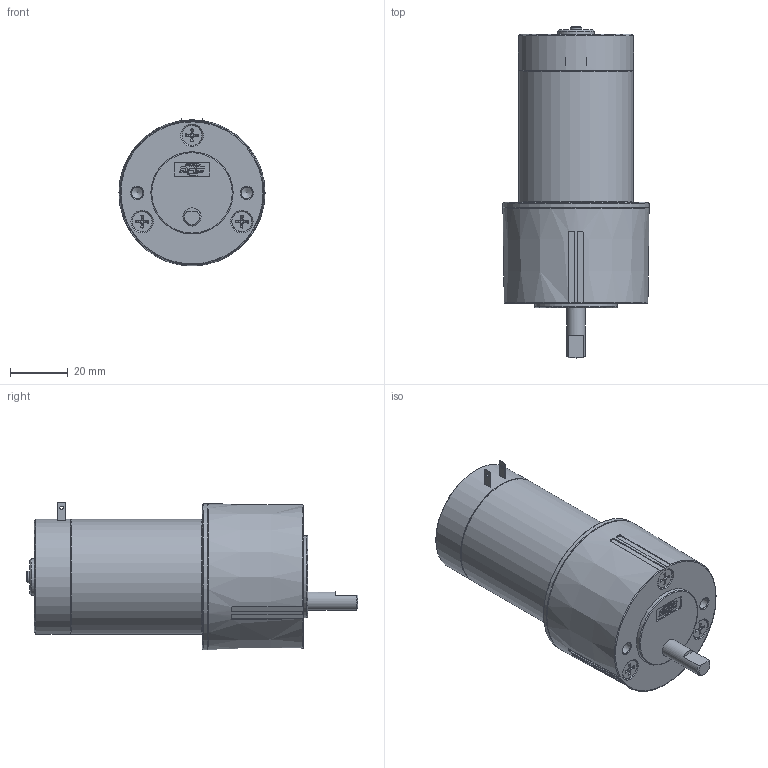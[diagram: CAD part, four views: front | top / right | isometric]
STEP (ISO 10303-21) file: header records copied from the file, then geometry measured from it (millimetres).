
FILE_DESCRIPTION((''),'2;1');
FILE_NAME('Z:\4_DC\새 폴더\RS4 SERIES\RS44ㅁㅁTㅁ.stp','2015-03-25T17:14:56',('kdhkdh'),(''),'Autodesk Inventor 2013','Autodesk Inventor 2013','');
FILE_SCHEMA(('AUTOMOTIVE_DESIGN { 1 0 10303 214 1 1 1 1 }'));
Length unit declared in the file: millimetre
Products named in the file (1): 부품2
Bounding box: 50.8 x 115.39 x 51.4 mm (x, y, z)
Volume: 144529.7 mm3; surface area: 18405.9 mm2
Topology: 1 solids, 3 shells, 367 faces, 967 edges, 633 vertices
Faces by surface type: plane 199, cylinder 101, cone 45, torus 22
Full cylindrical faces by diameter (mm): 1.2 x2, 2.8 x4, 3.5 x2, 3.7 x2, 3.962 x2, 4 x1, 6.34 x1, 6.9 x5, 7.8 x3, 12.7 x1, 28.575 x1, 40 x2, 50.8 x1
Entity records: 11662 total; most frequent: CARTESIAN_POINT 2925, ORIENTED_EDGE 1790, DIRECTION 1724, EDGE_CURVE 895, AXIS2_PLACEMENT_3D 633, VERTEX_POINT 614, EDGE_LOOP 458, VECTOR 458
